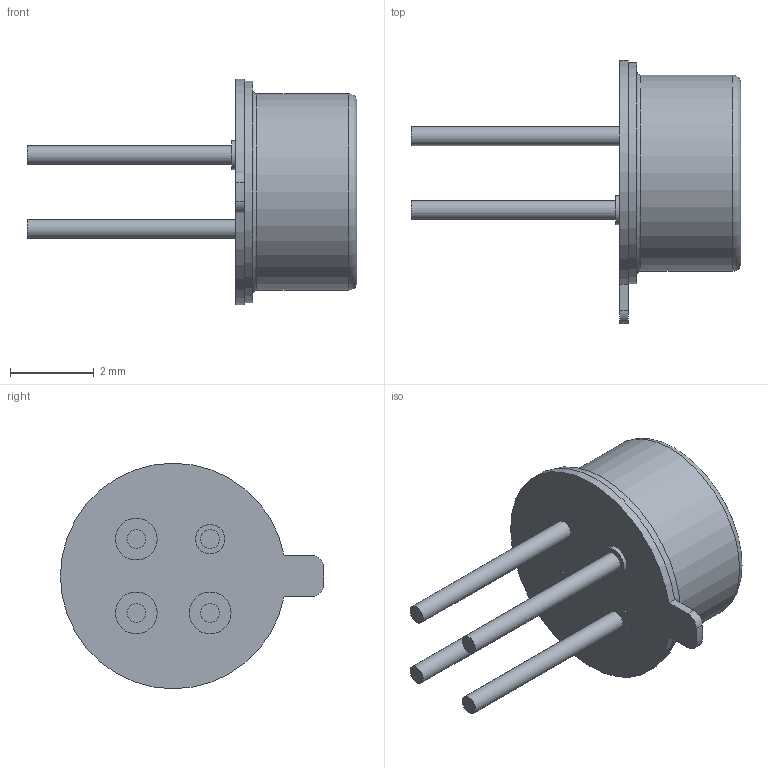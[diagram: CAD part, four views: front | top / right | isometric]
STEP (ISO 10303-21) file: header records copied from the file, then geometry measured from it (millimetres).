
FILE_DESCRIPTION(('STEP AP214'), '1');
FILE_NAME('TO-46', '2024-02-29T08:28:07', (''), (''), 'C3D Converter', 'C3D Toolkit', '');
FILE_SCHEMA(('AUTOMOTIVE_DESIGN { 1 0 10303 214 3 1 1}'));
Length unit declared in the file: millimetre
Bounding box: 7.9 x 6.3 x 5.4 mm (x, y, z)
Volume: 17.5 mm3; surface area: 208.9 mm2
Topology: 1 solids, 2 shells, 58 faces, 95 edges, 61 vertices
Faces by surface type: plane 26, cylinder 24, torus 7, cone 1
Full cylindrical faces by diameter (mm): 0.45 x8, 0.7 x1, 1 x6, 2 x1, 2.5 x1, 2.7 x1, 4.7 x1, 5.3 x1
Entity records: 1722 total; most frequent: DIRECTION 242, CARTESIAN_POINT 187, ORIENTED_EDGE 134, AXIS2_PLACEMENT_3D 116, EDGE_LOOP 106, EDGE_CURVE 67, VERTEX_POINT 61, COLOUR_RGB 59
